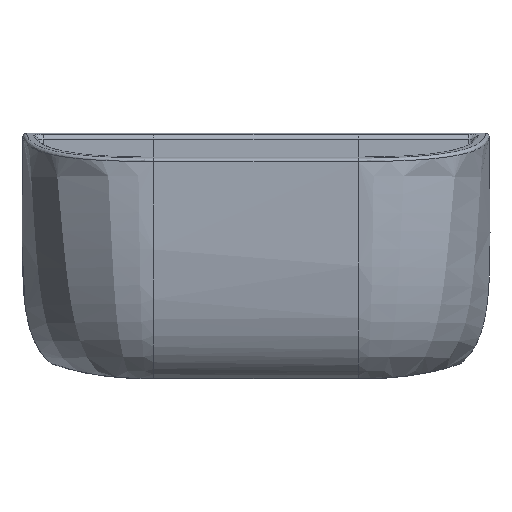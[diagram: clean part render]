
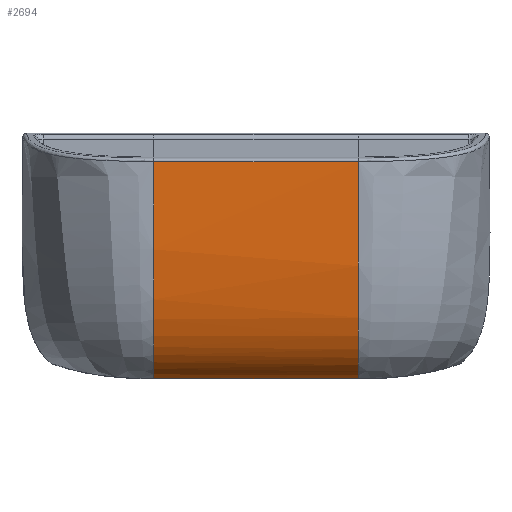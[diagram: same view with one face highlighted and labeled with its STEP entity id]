
A CAD part, top view. The second image highlights one B-rep face of the part: STEP entity #2694.
In plain terms, the highlighted free-form (B-spline) face has degree [3, 1] with [29, 2] control points.
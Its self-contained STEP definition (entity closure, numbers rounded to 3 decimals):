
#29=B_SPLINE_SURFACE_WITH_KNOTS('',3,1,((#4713,#4714),(#4715,#4716),(#4717,
#4718),(#4719,#4720),(#4721,#4722),(#4723,#4724),(#4725,#4726),(#4727,#4728),
(#4729,#4730),(#4731,#4732),(#4733,#4734),(#4735,#4736),(#4737,#4738),(#4739,
#4740),(#4741,#4742),(#4743,#4744),(#4745,#4746),(#4747,#4748),(#4749,#4750),
(#4751,#4752),(#4753,#4754),(#4755,#4756),(#4757,#4758),(#4759,#4760),(#4761,
#4762),(#4763,#4764),(#4765,#4766),(#4767,#4768),(#4769,#4770)),
 .UNSPECIFIED.,.F.,.F.,.F.,(4,1,1,1,1,1,1,1,1,1,1,1,1,1,1,1,1,1,1,1,1,1,
1,1,1,1,4),(2,2),(0.,0.023,0.061,0.1,
0.139,0.177,0.216,0.255,
0.293,0.332,0.371,0.41,
0.448,0.487,0.526,0.566,
0.605,0.644,0.684,0.724,
0.765,0.806,0.848,0.891,
0.935,0.98,1.),(0.,158.961),
 .UNSPECIFIED.);
#393=LINE('',#4529,#597);
#403=LINE('',#4707,#607);
#597=VECTOR('',#3531,304.8);
#607=VECTOR('',#3545,304.8);
#767=FACE_OUTER_BOUND('',#955,.T.);
#955=EDGE_LOOP('',(#2337,#2338,#2339,#2340));
#1108=B_SPLINE_CURVE_WITH_KNOTS('',3,(#4771,#4772,#4773,#4774,#4775,#4776,
#4777,#4778,#4779,#4780,#4781),.UNSPECIFIED.,.F.,.F.,(4,1,1,1,1,1,1,1,4),
(0.,0.125,0.25,0.375,0.5,0.625,0.75,0.875,1.),.UNSPECIFIED.);
#1109=B_SPLINE_CURVE_WITH_KNOTS('',3,(#4782,#4783,#4784,#4785,#4786,#4787,
#4788,#4789,#4790,#4791,#4792),.UNSPECIFIED.,.F.,.F.,(4,1,1,1,1,1,1,1,4),
(0.,0.125,0.25,0.375,0.5,0.625,0.75,0.875,1.),.UNSPECIFIED.);
#1347=VERTEX_POINT('',#4522);
#1348=VERTEX_POINT('',#4528);
#1359=VERTEX_POINT('',#4700);
#1360=VERTEX_POINT('',#4706);
#1680=EDGE_CURVE('',#1348,#1347,#393,.T.);
#1698=EDGE_CURVE('',#1360,#1359,#403,.T.);
#1700=EDGE_CURVE('',#1348,#1359,#1108,.T.);
#1701=EDGE_CURVE('',#1360,#1347,#1109,.T.);
#2337=ORIENTED_EDGE('',*,*,#1700,.F.);
#2338=ORIENTED_EDGE('',*,*,#1680,.T.);
#2339=ORIENTED_EDGE('',*,*,#1701,.F.);
#2340=ORIENTED_EDGE('',*,*,#1698,.T.);
#2694=ADVANCED_FACE('',(#767),#29,.T.);
#3531=DIRECTION('',(0.,1.,0.));
#3545=DIRECTION('',(0.,-1.,0.));
#4522=CARTESIAN_POINT('',(93.433,66.234,58.957));
#4528=CARTESIAN_POINT('',(93.433,-66.234,58.957));
#4529=CARTESIAN_POINT('',(93.433,-66.234,58.957));
#4700=CARTESIAN_POINT('',(-46.941,-66.234,97.258));
#4706=CARTESIAN_POINT('',(-46.941,66.234,97.258));
#4707=CARTESIAN_POINT('',(-46.941,66.234,97.258));
#4713=CARTESIAN_POINT('Ctrl Pts',(-46.941,-66.234,97.258));
#4714=CARTESIAN_POINT('Ctrl Pts',(-46.941,92.727,97.258));
#4715=CARTESIAN_POINT('Ctrl Pts',(-45.781,-66.234,97.245));
#4716=CARTESIAN_POINT('Ctrl Pts',(-45.781,92.727,97.245));
#4717=CARTESIAN_POINT('Ctrl Pts',(-42.657,-66.234,97.204));
#4718=CARTESIAN_POINT('Ctrl Pts',(-42.657,92.727,97.204));
#4719=CARTESIAN_POINT('Ctrl Pts',(-37.569,-66.234,97.12));
#4720=CARTESIAN_POINT('Ctrl Pts',(-37.569,92.727,97.12));
#4721=CARTESIAN_POINT('Ctrl Pts',(-31.675,-66.234,96.996));
#4722=CARTESIAN_POINT('Ctrl Pts',(-31.675,92.727,96.996));
#4723=CARTESIAN_POINT('Ctrl Pts',(-25.78,-66.234,96.84));
#4724=CARTESIAN_POINT('Ctrl Pts',(-25.78,92.727,96.84));
#4725=CARTESIAN_POINT('Ctrl Pts',(-19.884,-66.234,96.651));
#4726=CARTESIAN_POINT('Ctrl Pts',(-19.884,92.727,96.651));
#4727=CARTESIAN_POINT('Ctrl Pts',(-13.986,-66.234,96.423));
#4728=CARTESIAN_POINT('Ctrl Pts',(-13.986,92.727,96.423));
#4729=CARTESIAN_POINT('Ctrl Pts',(-8.088,-66.234,96.152));
#4730=CARTESIAN_POINT('Ctrl Pts',(-8.088,92.727,96.152));
#4731=CARTESIAN_POINT('Ctrl Pts',(-2.187,-66.234,95.832));
#4732=CARTESIAN_POINT('Ctrl Pts',(-2.187,92.727,95.832));
#4733=CARTESIAN_POINT('Ctrl Pts',(3.714,-66.234,95.458));
#4734=CARTESIAN_POINT('Ctrl Pts',(3.714,92.727,95.458));
#4735=CARTESIAN_POINT('Ctrl Pts',(9.616,-66.234,95.02));
#4736=CARTESIAN_POINT('Ctrl Pts',(9.616,92.727,95.02));
#4737=CARTESIAN_POINT('Ctrl Pts',(15.52,-66.234,94.511));
#4738=CARTESIAN_POINT('Ctrl Pts',(15.52,92.727,94.511));
#4739=CARTESIAN_POINT('Ctrl Pts',(21.424,-66.234,93.92));
#4740=CARTESIAN_POINT('Ctrl Pts',(21.424,92.727,93.92));
#4741=CARTESIAN_POINT('Ctrl Pts',(27.329,-66.234,93.229));
#4742=CARTESIAN_POINT('Ctrl Pts',(27.329,92.727,93.229));
#4743=CARTESIAN_POINT('Ctrl Pts',(33.232,-66.234,92.42));
#4744=CARTESIAN_POINT('Ctrl Pts',(33.232,92.727,92.42));
#4745=CARTESIAN_POINT('Ctrl Pts',(39.132,-66.234,91.476));
#4746=CARTESIAN_POINT('Ctrl Pts',(39.132,92.727,91.476));
#4747=CARTESIAN_POINT('Ctrl Pts',(45.023,-66.234,90.366));
#4748=CARTESIAN_POINT('Ctrl Pts',(45.023,92.727,90.366));
#4749=CARTESIAN_POINT('Ctrl Pts',(50.902,-66.234,89.057));
#4750=CARTESIAN_POINT('Ctrl Pts',(50.902,92.727,89.057));
#4751=CARTESIAN_POINT('Ctrl Pts',(56.773,-66.234,87.523));
#4752=CARTESIAN_POINT('Ctrl Pts',(56.773,92.727,87.523));
#4753=CARTESIAN_POINT('Ctrl Pts',(62.617,-66.234,85.664));
#4754=CARTESIAN_POINT('Ctrl Pts',(62.617,92.727,85.664));
#4755=CARTESIAN_POINT('Ctrl Pts',(68.39,-66.234,83.366));
#4756=CARTESIAN_POINT('Ctrl Pts',(68.39,92.727,83.366));
#4757=CARTESIAN_POINT('Ctrl Pts',(74.027,-66.234,80.532));
#4758=CARTESIAN_POINT('Ctrl Pts',(74.027,92.727,80.532));
#4759=CARTESIAN_POINT('Ctrl Pts',(79.447,-66.234,77.062));
#4760=CARTESIAN_POINT('Ctrl Pts',(79.447,92.727,77.062));
#4761=CARTESIAN_POINT('Ctrl Pts',(84.498,-66.234,72.822));
#4762=CARTESIAN_POINT('Ctrl Pts',(84.498,92.727,72.822));
#4763=CARTESIAN_POINT('Ctrl Pts',(88.904,-66.234,67.714));
#4764=CARTESIAN_POINT('Ctrl Pts',(88.904,92.727,67.714));
#4765=CARTESIAN_POINT('Ctrl Pts',(91.699,-66.234,62.906));
#4766=CARTESIAN_POINT('Ctrl Pts',(91.699,92.727,62.906));
#4767=CARTESIAN_POINT('Ctrl Pts',(93.045,-66.234,59.897));
#4768=CARTESIAN_POINT('Ctrl Pts',(93.045,92.727,59.897));
#4769=CARTESIAN_POINT('Ctrl Pts',(93.433,-66.234,58.957));
#4770=CARTESIAN_POINT('Ctrl Pts',(93.433,92.727,58.957));
#4771=CARTESIAN_POINT('Ctrl Pts',(93.433,-66.234,58.957));
#4772=CARTESIAN_POINT('Ctrl Pts',(91.093,-66.234,65.242));
#4773=CARTESIAN_POINT('Ctrl Pts',(83.317,-66.234,75.464));
#4774=CARTESIAN_POINT('Ctrl Pts',(66.309,-66.234,85.014));
#4775=CARTESIAN_POINT('Ctrl Pts',(47.904,-66.234,90.045));
#4776=CARTESIAN_POINT('Ctrl Pts',(29.099,-66.234,93.191));
#4777=CARTESIAN_POINT('Ctrl Pts',(10.143,-66.234,95.085));
#4778=CARTESIAN_POINT('Ctrl Pts',(-8.867,-66.234,96.264));
#4779=CARTESIAN_POINT('Ctrl Pts',(-27.899,-66.234,96.953));
#4780=CARTESIAN_POINT('Ctrl Pts',(-40.594,-66.234,97.179));
#4781=CARTESIAN_POINT('Ctrl Pts',(-46.941,-66.234,97.258));
#4782=CARTESIAN_POINT('Ctrl Pts',(-46.941,66.234,97.258));
#4783=CARTESIAN_POINT('Ctrl Pts',(-40.594,66.234,97.179));
#4784=CARTESIAN_POINT('Ctrl Pts',(-27.899,66.234,96.953));
#4785=CARTESIAN_POINT('Ctrl Pts',(-8.867,66.234,96.264));
#4786=CARTESIAN_POINT('Ctrl Pts',(10.143,66.234,95.085));
#4787=CARTESIAN_POINT('Ctrl Pts',(29.099,66.234,93.191));
#4788=CARTESIAN_POINT('Ctrl Pts',(47.904,66.234,90.045));
#4789=CARTESIAN_POINT('Ctrl Pts',(66.309,66.234,85.014));
#4790=CARTESIAN_POINT('Ctrl Pts',(83.317,66.234,75.464));
#4791=CARTESIAN_POINT('Ctrl Pts',(91.093,66.234,65.242));
#4792=CARTESIAN_POINT('Ctrl Pts',(93.433,66.234,58.957));
